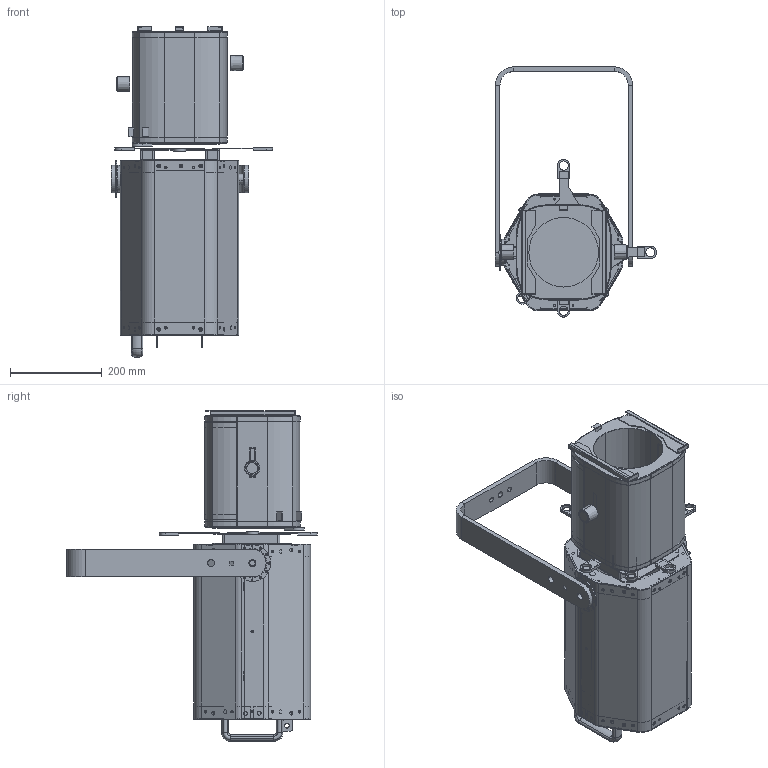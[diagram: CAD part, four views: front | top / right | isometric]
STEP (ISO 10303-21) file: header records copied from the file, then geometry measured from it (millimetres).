
FILE_DESCRIPTION (( 'STEP AP214' ), '1' );
FILE_NAME ('673SX.STEP', '2025-03-19T12:33:55', ( '' ), ( '' ), 'SwSTEP 2.0', 'SolidWorks 2023', '' );
FILE_SCHEMA (( 'AUTOMOTIVE_DESIGN' ));
Length unit declared in the file: millimetre
Products named in the file (45): CAD client_305499 Entretoise de fenetre SX_Coté droit; CAD client_407741 Bouton moleté bi Ø_Avec pastille Ø 29 pour Ø 6.2; CAD client_#_311107 Capot de zoom de 613SX_613 SX; CAD client_310811 Presse couteaux 600SX; CAD client_410813 Fenetre et couteaux de 600SX; IHM; CAD client_304204 Flan AR zoom 208x208_Rep 00; CAD client_304248 Plaque de fenetre lanterne; CAD client_304297 Glissière avant zoom coté droit_Coté droit; Fourche; CAD client_407740 surmoulage bouton moleté bi Ø_Pour moulage; CAD client_300502 Capot de zoom 208x208_Rep 11; Capot BAS; CAD client_404294 Couteaux SX_Rep 00; CAD client_#_311109 Carosserie zoom 613 SX; CAD client_408687 Montage Couteau_Rep 01; Rondelle graduee; CAD client_404339 Patte d''appui blocage couteaux_Rep 00; CAD client_#_311117 Zoom 613 SX; CAD client_300503 Raccord capot; 673SX; Capot HAUT; CAD client_401016 Poignée de couteaux_Bleue; CAD client_#311108 Corps de zoom 613SX; CAD client_310858 Fenetre image rotative; CAD client_310812 Fenetre image de 600SX; Poignée; CAD client_304254 Blocage couteaux; CAD client_305499 Entretoise de fenetre SX_Coté Gauche ; CAD client_304298 Poussoir verrouillage porte filtre; CAD client_410859 Blocage couteaux 600SX; CAD client_304249 Plaque de fenetre zoom; CAD client_304297 Glissière avant zoom coté gauche_Coté gauche; CAD client_304253 Plaque renfort AR zoom 208x208_Rep 00; CAD client_301671 Flan AV zoom 208x208_Rep 02; CAD client_407739 bouchon siglé RJ Ø 29 bouton moleté bi Ø_RJ en creux Ø 29; Lanterne 67x; Structure; CAD client_407740 surmoulage sur insert bouton moleté bi Ø_Partie surmoulée pour insert bi Ø; Canon de fourche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
Assembly tree (49 placements, depth 7):
  673SX
    Lanterne 67x
      Structure
      IHM
      Niche
      Poignée
      Capot HAUT
      Capot BAS
      Rondelle graduee
      Fourche
      Canon de fourche
    CAD client_#_311117 Zoom 613 SX
      CAD client_#_311109 Carosserie zoom 613 SX
        CAD client_#311108 Corps de zoom 613SX
          CAD client_204350 Corps de zoom 613SX
          CAD client_301671 Flan AV zoom 208x208_Rep 02
          CAD client_304204 Flan AR zoom 208x208_Rep 00
          CAD client_300503 Raccord capot  x2
          CAD client_404339 Patte d''appui blocage couteaux_Rep 00
          CAD client_304253 Plaque renfort AR zoom 208x208_Rep 00
        CAD client_#_311107 Capot de zoom de 613SX_613 SX
          CAD client_300502 Capot de zoom 208x208_Rep 11
      CAD client_304297 Glissière avant zoom coté gauche_Coté gauche
      CAD client_304297 Glissière avant zoom coté droit_Coté droit
      CAD client_304298 Poussoir verrouillage porte filtre
      CAD client_407741 Bouton moleté bi Ø_Avec pastille Ø 29 pour Ø 6.2  x2
        CAD client_407740 surmoulage bouton moleté bi Ø_Pour moulage
          CAD client_407740 surmoulage sur insert bouton moleté bi Ø_Partie surmoulée pour insert bi Ø
        CAD client_407739 bouchon siglé RJ Ø 29 bouton moleté bi Ø_RJ en creux Ø 29
    CAD client_310858 Fenetre image rotative
      CAD client_410813 Fenetre et couteaux de 600SX
        CAD client_310812 Fenetre image de 600SX
          CAD client_310811 Presse couteaux 600SX
            CAD client_304249 Plaque de fenetre zoom
              CAD client_304249 Plaque de fenetre zoom
          CAD client_304248 Plaque de fenetre lanterne
            CAD client_304248 Plaque de fenetre lanterne
          CAD client_305499 Entretoise de fenetre SX_Coté Gauche 
          CAD client_305499 Entretoise de fenetre SX_Coté droit
        CAD client_408687 Montage Couteau_Rep 01  x4
          CAD client_404294 Couteaux SX_Rep 00
          CAD client_401016 Poignée de couteaux_Grise
      CAD client_410859 Blocage couteaux 600SX
        CAD client_304254 Blocage couteaux
        CAD client_401016 Poignée de couteaux_Bleue
Bounding box: 352 x 546.5 x 723.01 mm (x, y, z)
Volume: 2213402.6 mm3; surface area: 2392001.5 mm2
Topology: 65 solids, 65 shells, 3543 faces, 8626 edges, 5384 vertices
Faces by surface type: plane 1663, cylinder 1381, bspline 224, cone 143, torus 132
Entity records: 118935 total; most frequent: CARTESIAN_POINT 34177, DIRECTION 17622, ORIENTED_EDGE 16872, EDGE_CURVE 8436, AXIS2_PLACEMENT_3D 6398, VERTEX_POINT 5268, LINE 4826, VECTOR 4826
